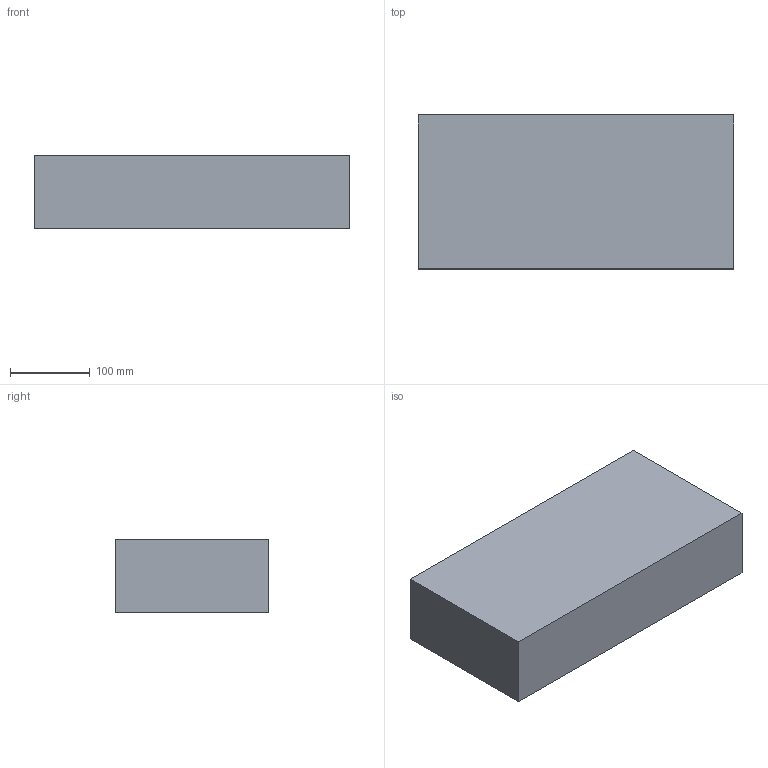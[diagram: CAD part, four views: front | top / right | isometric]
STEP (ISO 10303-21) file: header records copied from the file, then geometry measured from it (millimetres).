
FILE_DESCRIPTION(('FreeCAD Model'),'2;1');
FILE_NAME('/home/jwright/Documents/Mach_30/Shepard_v1.0_CAD/STEP_Files/Shepard_v1.0_Concrete_Block.step','2012-10-25T20:53:07',('FreeCAD'),('FreeCAD'), 'Open CASCADE STEP processor 6.5','FreeCAD','Unknown');
FILE_SCHEMA(('AUTOMOTIVE_DESIGN_CC2 { 1 2 10303 214 -1 1 5 4 }'));
Length unit declared in the file: millimetre
Products named in the file (1): Concrete_Block
Bounding box: 396.88 x 193.68 x 92.08 mm (x, y, z)
Volume: 7077323.2 mm3; surface area: 262479.3 mm2
Topology: 1 solids, 1 shells, 6 faces, 12 edges, 8 vertices
Faces by surface type: plane 6
Entity records: 333 total; most frequent: CARTESIAN_POINT 51, DIRECTION 50, LINE 36, VECTOR 36, ORIENTED_EDGE 24, PCURVE 24, DEFINITIONAL_REPRESENTATION 24, EDGE_CURVE 12
